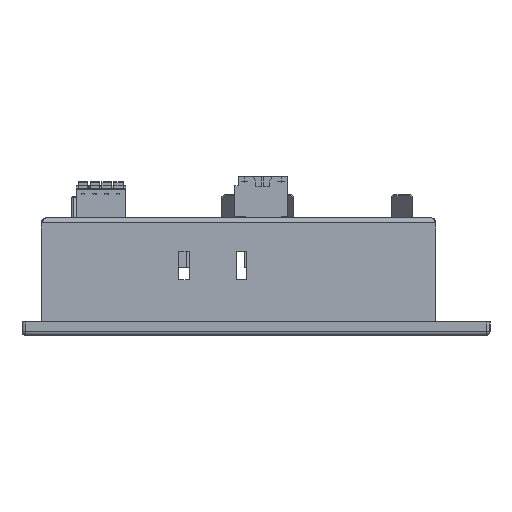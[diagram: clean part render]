
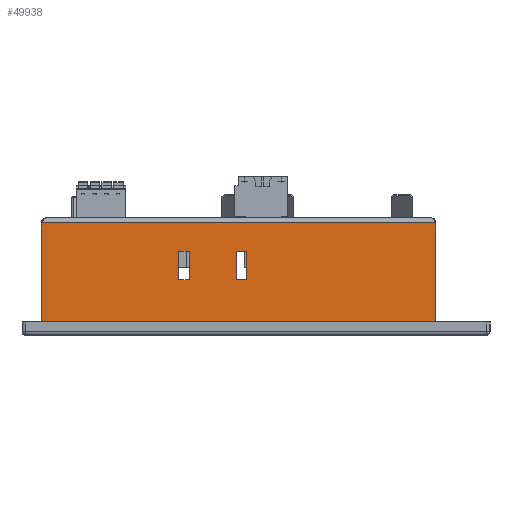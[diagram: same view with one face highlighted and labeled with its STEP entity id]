
A CAD part, left-side view. The second image highlights one B-rep face of the part: STEP entity #49938.
In plain terms, the highlighted planar face has unit normal (-1, 0, 0).
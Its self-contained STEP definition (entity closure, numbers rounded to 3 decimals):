
#234 = PLANE ( 'NONE',  #34586 ) ;
#961 = EDGE_CURVE ( 'NONE', #57184, #4164, #21040, .T. ) ;
#1463 = DIRECTION ( 'NONE',  ( 0., -1., 0. ) ) ;
#2107 = CARTESIAN_POINT ( 'NONE',  ( -0.8, -17.6, -75.4 ) ) ;
#2374 = VECTOR ( 'NONE', #17562, 1000. ) ;
#2498 = ORIENTED_EDGE ( 'NONE', *, *, #61303, .T. ) ;
#2926 = EDGE_CURVE ( 'NONE', #4164, #56956, #47365, .T. ) ;
#4164 = VERTEX_POINT ( 'NONE', #2107 ) ;
#4917 = VERTEX_POINT ( 'NONE', #43316 ) ;
#5176 = CARTESIAN_POINT ( 'NONE',  ( -0.8, 0., -115.4 ) ) ;
#5371 = LINE ( 'NONE', #18922, #18400 ) ;
#6352 = DIRECTION ( 'NONE',  ( 0., -1., 0. ) ) ;
#6579 = VERTEX_POINT ( 'NONE', #33309 ) ;
#6861 = CARTESIAN_POINT ( 'NONE',  ( -0.8, -30.1, -116.2 ) ) ;
#7616 = DIRECTION ( 'NONE',  ( 0., 0., 1. ) ) ;
#8080 = CARTESIAN_POINT ( 'NONE',  ( -0.8, -17.6, -55.4 ) ) ;
#8635 = CARTESIAN_POINT ( 'NONE',  ( -0.8, -9.1, -75.4 ) ) ;
#8838 = EDGE_CURVE ( 'NONE', #15589, #4917, #39346, .T. ) ;
#9871 = ORIENTED_EDGE ( 'NONE', *, *, #14225, .T. ) ;
#10998 = CARTESIAN_POINT ( 'NONE',  ( -0.8, 0., -75.4 ) ) ;
#11183 = EDGE_LOOP ( 'NONE', ( #2498, #22284, #9871, #28032 ) ) ;
#11738 = EDGE_CURVE ( 'NONE', #59417, #31254, #5371, .T. ) ;
#12213 = ORIENTED_EDGE ( 'NONE', *, *, #30924, .T. ) ;
#14225 = EDGE_CURVE ( 'NONE', #52147, #6579, #57128, .T. ) ;
#14393 = EDGE_CURVE ( 'NONE', #59417, #15589, #43290, .T. ) ;
#15047 = DIRECTION ( 'NONE',  ( 0., 1., 0. ) ) ;
#15312 = CARTESIAN_POINT ( 'NONE',  ( -0.8, -0.75, -116.2 ) ) ;
#15411 = FACE_BOUND ( 'NONE', #31572, .T. ) ;
#15569 = DIRECTION ( 'NONE',  ( 0., 0., 1. ) ) ;
#15589 = VERTEX_POINT ( 'NONE', #6861 ) ;
#16243 = CARTESIAN_POINT ( 'NONE',  ( -0.8, 0., -55.4 ) ) ;
#16949 = FACE_BOUND ( 'NONE', #11183, .T. ) ;
#16974 = LINE ( 'NONE', #51650, #2374 ) ;
#17562 = DIRECTION ( 'NONE',  ( 0., -1., 0. ) ) ;
#17569 = EDGE_CURVE ( 'NONE', #55246, #52147, #39229, .T. ) ;
#18136 = LINE ( 'NONE', #53540, #57266 ) ;
#18400 = VECTOR ( 'NONE', #23880, 1000. ) ;
#18922 = CARTESIAN_POINT ( 'NONE',  ( -0.8, -0.75, -115.4 ) ) ;
#21040 = LINE ( 'NONE', #58345, #34070 ) ;
#22284 = ORIENTED_EDGE ( 'NONE', *, *, #17569, .T. ) ;
#22611 = CARTESIAN_POINT ( 'NONE',  ( -0.8, -9.1, -58.4 ) ) ;
#23880 = DIRECTION ( 'NONE',  ( 0., 0., 1. ) ) ;
#24174 = DIRECTION ( 'NONE',  ( 0., 1., 0. ) ) ;
#24765 = ORIENTED_EDGE ( 'NONE', *, *, #961, .T. ) ;
#27655 = VERTEX_POINT ( 'NONE', #22611 ) ;
#27709 = ORIENTED_EDGE ( 'NONE', *, *, #2926, .T. ) ;
#27743 = DIRECTION ( 'NONE',  ( 0., 1., 0. ) ) ;
#27988 = ORIENTED_EDGE ( 'NONE', *, *, #11738, .F. ) ;
#28032 = ORIENTED_EDGE ( 'NONE', *, *, #44073, .T. ) ;
#28256 = ORIENTED_EDGE ( 'NONE', *, *, #60235, .F. ) ;
#28422 = FACE_OUTER_BOUND ( 'NONE', #31444, .T. ) ;
#29033 = CARTESIAN_POINT ( 'NONE',  ( -0.8, -9.1, -72.4 ) ) ;
#30248 = VECTOR ( 'NONE', #1463, 1000. ) ;
#30772 = DIRECTION ( 'NONE',  ( 0., -1., 0. ) ) ;
#30924 = EDGE_CURVE ( 'NONE', #35056, #57184, #53796, .T. ) ;
#31054 = VECTOR ( 'NONE', #54012, 1000. ) ;
#31161 = CARTESIAN_POINT ( 'NONE',  ( -0.8, -9.1, -115.4 ) ) ;
#31254 = VERTEX_POINT ( 'NONE', #47886 ) ;
#31444 = EDGE_LOOP ( 'NONE', ( #55233, #28256, #27988, #61535 ) ) ;
#31572 = EDGE_LOOP ( 'NONE', ( #46765, #12213, #24765, #27709 ) ) ;
#33309 = CARTESIAN_POINT ( 'NONE',  ( -0.8, -17.6, -58.4 ) ) ;
#33456 = LINE ( 'NONE', #59499, #57994 ) ;
#34070 = VECTOR ( 'NONE', #55631, 1000. ) ;
#34326 = VECTOR ( 'NONE', #27743, 1000. ) ;
#34586 = AXIS2_PLACEMENT_3D ( 'NONE', #5176, #44390, #15047 ) ;
#35056 = VERTEX_POINT ( 'NONE', #29033 ) ;
#35487 = CARTESIAN_POINT ( 'NONE',  ( -0.8, 0., -72.4 ) ) ;
#35778 = CARTESIAN_POINT ( 'NONE',  ( -0.8, -0.75, -116.2 ) ) ;
#39229 = LINE ( 'NONE', #16243, #52273 ) ;
#39346 = LINE ( 'NONE', #51363, #50865 ) ;
#39713 = CARTESIAN_POINT ( 'NONE',  ( -0.8, -17.6, -72.4 ) ) ;
#40766 = VECTOR ( 'NONE', #30772, 1000. ) ;
#41877 = DIRECTION ( 'NONE',  ( 0., 0., 1. ) ) ;
#43290 = LINE ( 'NONE', #35778, #30248 ) ;
#43316 = CARTESIAN_POINT ( 'NONE',  ( -0.8, -30.1, 0.8 ) ) ;
#43816 = CARTESIAN_POINT ( 'NONE',  ( -0.8, -9.1, -55.4 ) ) ;
#43935 = CARTESIAN_POINT ( 'NONE',  ( -0.8, -17.6, -115.4 ) ) ;
#44073 = EDGE_CURVE ( 'NONE', #6579, #27655, #18136, .T. ) ;
#44240 = EDGE_CURVE ( 'NONE', #56956, #35056, #33456, .T. ) ;
#44390 = DIRECTION ( 'NONE',  ( 1., 0., 0. ) ) ;
#46765 = ORIENTED_EDGE ( 'NONE', *, *, #44240, .T. ) ;
#47365 = LINE ( 'NONE', #10998, #34326 ) ;
#47886 = CARTESIAN_POINT ( 'NONE',  ( -0.8, -0.75, 0.8 ) ) ;
#49938 = ADVANCED_FACE ( 'NONE', ( #15411, #16949, #28422 ), #234, .F. ) ;
#50865 = VECTOR ( 'NONE', #7616, 1000. ) ;
#51363 = CARTESIAN_POINT ( 'NONE',  ( -0.8, -30.1, 0. ) ) ;
#51650 = CARTESIAN_POINT ( 'NONE',  ( -0.8, -0.75, 0.8 ) ) ;
#52147 = VERTEX_POINT ( 'NONE', #8080 ) ;
#52273 = VECTOR ( 'NONE', #6352, 1000. ) ;
#53153 = LINE ( 'NONE', #31161, #54695 ) ;
#53540 = CARTESIAN_POINT ( 'NONE',  ( -0.8, 0., -58.4 ) ) ;
#53796 = LINE ( 'NONE', #35487, #40766 ) ;
#54012 = DIRECTION ( 'NONE',  ( 0., 0., -1. ) ) ;
#54695 = VECTOR ( 'NONE', #41877, 1000. ) ;
#55233 = ORIENTED_EDGE ( 'NONE', *, *, #8838, .T. ) ;
#55246 = VERTEX_POINT ( 'NONE', #43816 ) ;
#55631 = DIRECTION ( 'NONE',  ( 0., 0., -1. ) ) ;
#56956 = VERTEX_POINT ( 'NONE', #8635 ) ;
#57128 = LINE ( 'NONE', #43935, #31054 ) ;
#57184 = VERTEX_POINT ( 'NONE', #39713 ) ;
#57266 = VECTOR ( 'NONE', #24174, 1000. ) ;
#57994 = VECTOR ( 'NONE', #15569, 1000. ) ;
#58345 = CARTESIAN_POINT ( 'NONE',  ( -0.8, -17.6, -115.4 ) ) ;
#59417 = VERTEX_POINT ( 'NONE', #15312 ) ;
#59499 = CARTESIAN_POINT ( 'NONE',  ( -0.8, -9.1, -115.4 ) ) ;
#60235 = EDGE_CURVE ( 'NONE', #31254, #4917, #16974, .T. ) ;
#61303 = EDGE_CURVE ( 'NONE', #27655, #55246, #53153, .T. ) ;
#61535 = ORIENTED_EDGE ( 'NONE', *, *, #14393, .T. ) ;
